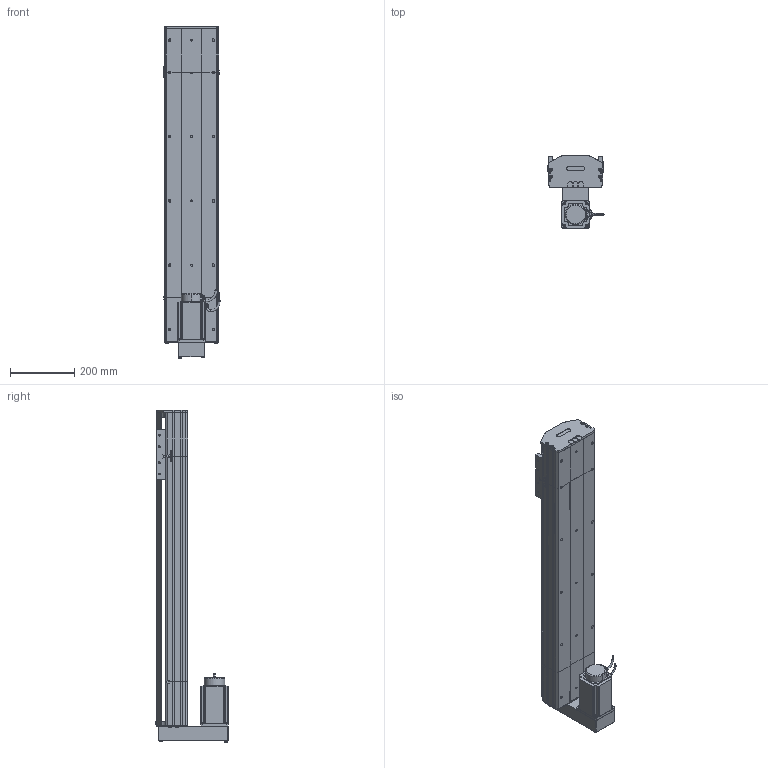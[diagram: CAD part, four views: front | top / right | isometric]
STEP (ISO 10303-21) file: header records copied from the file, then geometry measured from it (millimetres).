
FILE_DESCRIPTION (( 'STEP AP214' ), '1' );
FILE_NAME ('D17 TSH BM S700.STEP', '2010-06-30T06:41:55', ( 'Christophe Gaillard' ), ( 'SGA' ), 'SwSTEP 2.0', 'SolidWorks 2010', '' );
FILE_SCHEMA (( 'AUTOMOTIVE_DESIGN' ));
Length unit declared in the file: millimetre
Products named in the file (33): corps 90BLDC125A-640; Vis M5 L16-2_Default; codeur 90BLDC125-640; Conecteur_Default; Conecteur2_Default; vis M5 L12_Default; guide D17; Chariot D17; Cvis M5 L70_Default; renvoi Bm_Default; chariot D17S_Default; D17 TSH BM S700; corp D17 700_Default; arbre + rail D17 Course 700 ; course 700 D17_Default; corpl tail D17+L100_Default; Tail D17+L100_Default; couvercle D17 course L700_Default; tete d''axe haut D17; tete d''axe bas D17; plaque de  bout tail D17_Default; vis M5 L8 90°_Default; couvercle D17_Default; Arbre+rail tail D17; corpl head D17 BM_Default; head BM_Default; vis M5 L25_Default; Arbre+rail head D17; plaque de  bout BM head D17_Default; couvercle D17 head_Default; avant 90BLDC125A-640; Moteur motionking 90BLDC125A-640; vis M5 L5_Default
Assembly tree (55 placements, depth 4):
  D17 TSH BM S700
    Tail D17+L100_Default
      vis M5 L25_Default  x2
      vis M5 L12_Default  x4
      vis M5 L8 90°_Default  x2
      plaque de  bout tail D17_Default
      couvercle D17_Default
      tete d''axe haut D17
      corpl tail D17+L100_Default
      Arbre+rail tail D17
      tete d''axe bas D17
    head BM_Default
      vis M5 L12_Default  x8
      vis M5 L5_Default  x2
      plaque de  bout BM head D17_Default
      corpl head D17 BM_Default
      Vis M5 L16-2_Default  x4
      couvercle D17 head_Default
      Cvis M5 L70_Default  x2
      Moteur motionking 90BLDC125A-640
        Conecteur_Default
        Conecteur2_Default
        corps 90BLDC125A-640
        avant 90BLDC125A-640
        codeur 90BLDC125-640
      Arbre+rail head D17
      renvoi Bm_Default
    chariot D17S_Default
      vis M5 L12_Default  x4
      guide D17  x2
      Chariot D17
    course 700 D17_Default
      arbre + rail D17 Course 700 
      couvercle D17 course L700_Default
      corp D17 700_Default
Bounding box: 174.95 x 225.7 x 1032.7 mm (x, y, z)
Volume: 7206299.7 mm3; surface area: 1806808.6 mm2
Topology: 80 solids, 80 shells, 2253 faces, 5664 edges, 3654 vertices
Faces by surface type: plane 1400, cylinder 576, bspline 136, torus 73, cone 64, sphere 4
Entity records: 72818 total; most frequent: CARTESIAN_POINT 22711, ORIENTED_EDGE 8836, DIRECTION 8275, EDGE_CURVE 4418, LINE 3067, VECTOR 3067, VERTEX_POINT 2900, AXIS2_PLACEMENT_3D 2604
